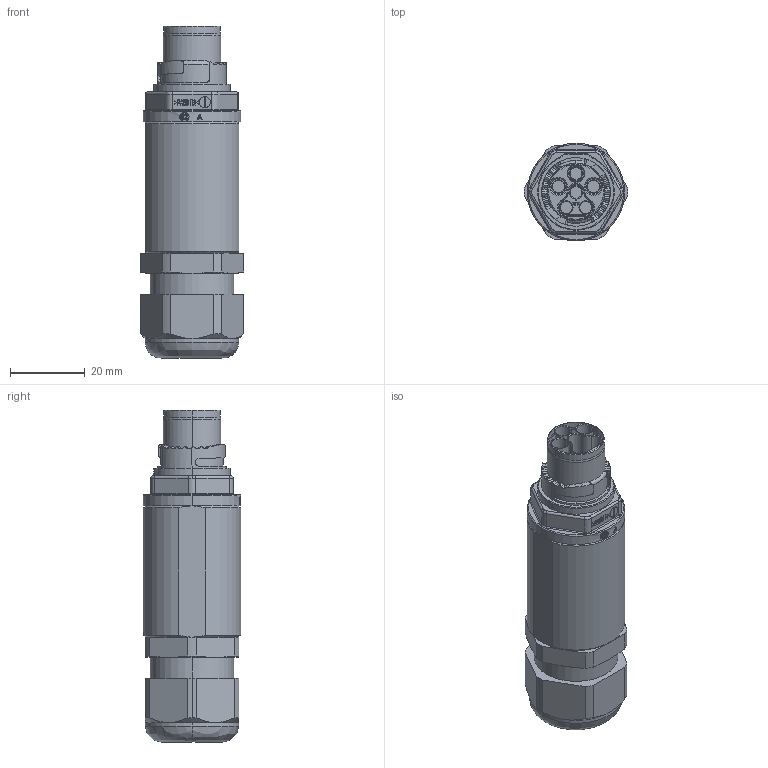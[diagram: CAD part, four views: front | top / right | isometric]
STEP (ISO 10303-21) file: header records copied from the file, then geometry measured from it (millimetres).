
FILE_DESCRIPTION (( 'STEP AP214' ), '1' );
FILE_NAME ('1146871-00000.STEP', '2022-05-05T07:43:03', ( '' ), ( '' ), 'SwSTEP 2.0', 'SolidWorks 2021', '' );
FILE_SCHEMA (( 'AUTOMOTIVE_DESIGN' ));
Length unit declared in the file: millimetre
Products named in the file (1): 1146871-00000
Bounding box: 27.6 x 26 x 88.6 mm (x, y, z)
Surface area: 9441.3 mm2 (no closed solid volume)
Topology: 0 solids, 3 shells, 573 faces, 1483 edges, 956 vertices
Faces by surface type: plane 240, cylinder 190, torus 65, bspline 59, cone 19
Entity records: 20779 total; most frequent: CARTESIAN_POINT 7246, ORIENTED_EDGE 2958, DIRECTION 2604, EDGE_CURVE 1483, VERTEX_POINT 956, AXIS2_PLACEMENT_3D 935, LINE 734, VECTOR 734
